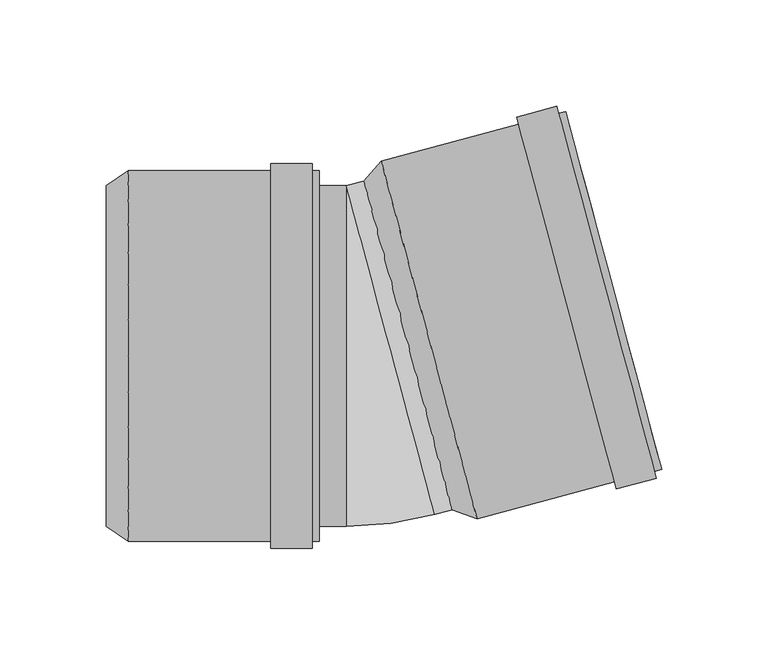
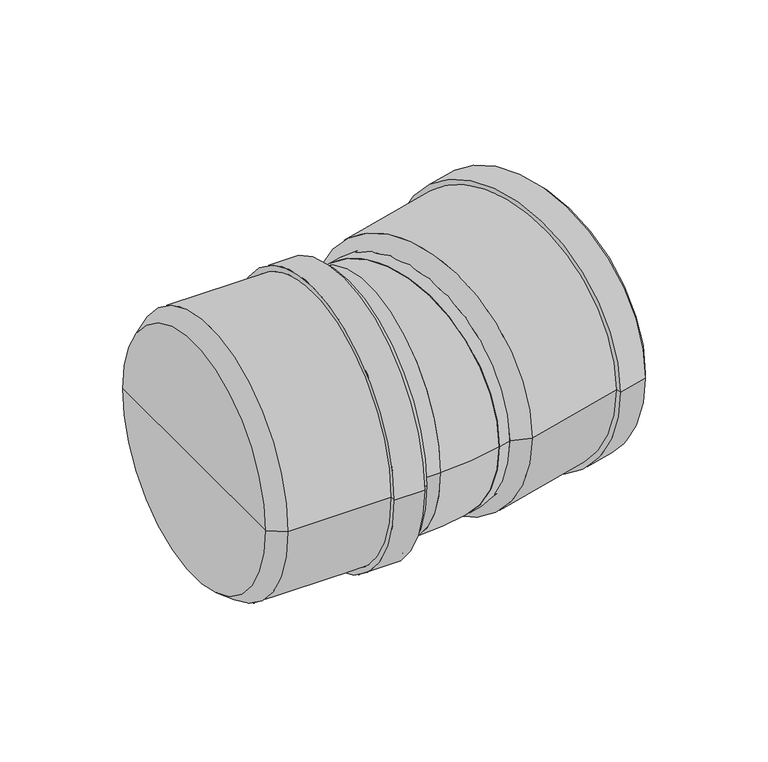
"""IFC4 building model written with IfcOpenShell, lengths in millimetres: pipe fitting geometry, pf_HTB : pf_HTB."""

from ifc_helpers import new_model, si_unit, point, frame, origin, origin_2d, place, context, project, spatial, polyline, circle_curve, ellipse_curve, trimmed, segment, composite_curve, outline, extrude, source, transform, mapped, element, save
from ifc_brep_helpers import plane_surface, cylinder_surface, revolved_surface, advanced_brep


def pipe_fitting_c4cf05fe(model_context):
    return source(origin(), model_context, "Body", "SolidModel", [
        advanced_brep(
        [(39.0581143, -72.3565042, 0.0), (-2.3529329, 82.191628, 0.0), (5.7584879, 91.7155375, 0.0), (50.8447655, -76.5487414, 0.0), (18.3525907, 4.9175619, 0.0), (137.4883122, -53.3326731, 0.0), (92.4020345, 114.9316058, 0.0), (94.2396497, 108.0735325, 0.0), (135.6506969, -46.4745997, 0.0), (134.2041643, -54.2126579, 0.0), (89.1178867, 114.0516211, 0.0), (135.0841491, -57.4968057, 0.0), (88.2379019, 117.3357689, 0.0), (116.2485955, -62.543777, 0.0), (69.4023483, 112.2887975, 0.0), (115.3686107, -59.2596292, 0.0), (70.2823331, 109.0046497, 0.0), (49.0071503, -69.6906681, 0.0), (7.5961031, 84.8574641, 0.0), (28.3016267, 7.583398, 0.0)],
        [
            (0, 1, circle_curve(frame((18.3525907, 4.9175619, 0.0), z_axis=(0.9659258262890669, 0.25881904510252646, 0.0), x_axis=(-0.2588190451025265, 0.9659258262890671, 0.0)), 80.0)),
            (1, 2),
            (2, 3, circle_curve(frame((28.3016267, 7.583398, 0.0), z_axis=(-0.9659258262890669, -0.25881904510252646, 0.0), x_axis=(-0.2588190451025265, 0.9659258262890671, 0.0)), 87.1)),
            (3, 0),
            (1, 0, circle_curve(frame((18.3525907, 4.9175619, 0.0), z_axis=(0.9659258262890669, 0.25881904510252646, 0.0), x_axis=(-0.2588190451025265, 0.9659258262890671, 0.0)), 80.0)),
            (3, 2, circle_curve(frame((28.3016267, 7.583398, 0.0), z_axis=(-0.9659258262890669, -0.25881904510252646, 0.0), x_axis=(-0.2588190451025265, 0.9659258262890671, 0.0)), 87.1)),
            (4, 1),
            (0, 4),
            (5, 6, circle_curve(frame((114.9451733, 30.7994664, 0.0), z_axis=(0.9659258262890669, 0.25881904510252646, 0.0), x_axis=(-0.2588190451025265, 0.9659258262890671, 0.0)), 87.1)),
            (6, 7),
            (7, 8, circle_curve(frame((114.9451733, 30.7994664, 0.0), z_axis=(-0.9659258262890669, -0.25881904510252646, 0.0), x_axis=(-0.2588190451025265, 0.9659258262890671, 0.0)), 80.0)),
            (8, 5),
            (6, 5, circle_curve(frame((114.9451733, 30.7994664, 0.0), z_axis=(0.9659258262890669, 0.25881904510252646, 0.0), x_axis=(-0.2588190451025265, 0.9659258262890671, 0.0)), 87.1)),
            (8, 7, circle_curve(frame((114.9451733, 30.7994664, 0.0), z_axis=(-0.9659258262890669, -0.25881904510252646, 0.0), x_axis=(-0.2588190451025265, 0.9659258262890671, 0.0)), 80.0)),
            (9, 10, circle_curve(frame((111.6610255, 29.9194816, 0.0), z_axis=(0.9659258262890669, 0.25881904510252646, 0.0), x_axis=(-0.2588190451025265, 0.9659258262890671, 0.0)), 87.1)),
            (10, 6),
            (5, 9),
            (10, 9, circle_curve(frame((111.6610255, 29.9194816, 0.0), z_axis=(0.9659258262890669, 0.25881904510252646, 0.0), x_axis=(-0.2588190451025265, 0.9659258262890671, 0.0)), 87.1)),
            (11, 12, circle_curve(frame((111.6610255, 29.9194816, 0.0), z_axis=(0.9659258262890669, 0.25881904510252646, 0.0), x_axis=(-0.2588190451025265, 0.9659258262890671, 0.0)), 90.5)),
            (12, 10),
            (9, 11),
            (12, 11, circle_curve(frame((111.6610255, 29.9194816, 0.0), z_axis=(0.9659258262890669, 0.25881904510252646, 0.0), x_axis=(-0.2588190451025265, 0.9659258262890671, 0.0)), 90.5)),
            (13, 14, circle_curve(frame((92.8254719, 24.8725102, 0.0), z_axis=(0.9659258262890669, 0.25881904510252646, 0.0), x_axis=(-0.2588190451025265, 0.9659258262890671, 0.0)), 90.5)),
            (14, 12),
            (11, 13),
            (14, 13, circle_curve(frame((92.8254719, 24.8725102, 0.0), z_axis=(0.9659258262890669, 0.25881904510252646, 0.0), x_axis=(-0.2588190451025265, 0.9659258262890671, 0.0)), 90.5)),
            (15, 16, circle_curve(frame((92.8254719, 24.8725102, 0.0), z_axis=(0.9659258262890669, 0.25881904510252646, 0.0), x_axis=(-0.2588190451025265, 0.9659258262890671, 0.0)), 87.1)),
            (16, 14),
            (13, 15),
            (16, 15, circle_curve(frame((92.8254719, 24.8725102, 0.0), z_axis=(0.9659258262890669, 0.25881904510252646, 0.0), x_axis=(-0.2588190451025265, 0.9659258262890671, 0.0)), 87.1)),
            (2, 16),
            (15, 3),
            (17, 18, circle_curve(frame((28.3016267, 7.583398, 0.0), z_axis=(0.9659258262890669, 0.25881904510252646, 0.0), x_axis=(-0.2588190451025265, 0.9659258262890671, 0.0)), 80.0)),
            (18, 19),
            (19, 17),
            (18, 17, circle_curve(frame((28.3016267, 7.583398, 0.0), z_axis=(0.9659258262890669, 0.25881904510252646, 0.0), x_axis=(-0.2588190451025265, 0.9659258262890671, 0.0)), 80.0)),
            (7, 18),
            (17, 8),
        ],
        [
            revolved_surface(polyline([(5.7584879, 91.7155375, 0.0), (-2.3529329, 82.191628, 0.0)]), (18.3525907, 4.9175619, 0.0), (-0.9659258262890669, -0.25881904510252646, 0.0)),
            plane_surface(frame((18.3525907, 4.9175619, 0.0), z_axis=(-0.9659258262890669, -0.25881904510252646, 0.0), x_axis=(-0.25881904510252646, 0.9659258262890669, 0.0))),
            plane_surface(frame((114.9451733, 30.7994664, 0.0), z_axis=(0.9659258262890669, 0.25881904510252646, 0.0), x_axis=(-0.25881904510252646, 0.9659258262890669, 0.0))),
            cylinder_surface(frame((18.3525907, 4.9175619, 0.0), z_axis=(-0.9659258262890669, -0.25881904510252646, 0.0), x_axis=(-0.2588190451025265, 0.9659258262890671, 0.0)), 87.1),
            plane_surface(frame((111.6610255, 29.9194816, 0.0), z_axis=(0.9659258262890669, 0.25881904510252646, 0.0), x_axis=(-0.25881904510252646, 0.9659258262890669, 0.0))),
            cylinder_surface(frame((18.3525907, 4.9175619, 0.0), z_axis=(-0.9659258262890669, -0.25881904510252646, 0.0), x_axis=(-0.2588190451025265, 0.9659258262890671, 0.0)), 90.5),
            plane_surface(frame((92.8254719, 24.8725102, 0.0), z_axis=(-0.9659258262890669, -0.25881904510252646, 0.0), x_axis=(-0.25881904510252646, 0.9659258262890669, 0.0))),
            plane_surface(frame((28.3016267, 7.583398, 0.0), z_axis=(0.9659258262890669, 0.25881904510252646, 0.0), x_axis=(-0.25881904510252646, 0.9659258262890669, 0.0))),
            revolved_surface(polyline([(7.596103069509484, 84.85746415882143, 0.0), (94.23964969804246, 108.07353250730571, 0.0)]), (18.3525907, 4.9175619, 0.0), (-0.9659258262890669, -0.25881904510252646, 0.0)),
        ],
        [
            (0, [[1, 2, 3, 4]]),
            (0, [[5, -4, 6, -2]]),
            (1, [[7, -1, 8]]),
            (1, [[-8, -5, -7]]),
            (2, [[9, 10, 11, 12]]),
            (2, [[13, -12, 14, -10]]),
            (3, [[15, 16, -9, 17]]),
            (3, [[18, -17, -13, -16]]),
            (4, [[19, 20, -15, 21]]),
            (4, [[22, -21, -18, -20]]),
            (5, [[23, 24, -19, 25]]),
            (5, [[26, -25, -22, -24]]),
            (6, [[27, 28, -23, 29]]),
            (6, [[30, -29, -26, -28]]),
            (3, [[-3, 31, -27, 32]]),
            (3, [[-6, -32, -30, -31]]),
            (7, [[33, 34, 35]]),
            (7, [[36, -35, -34]]),
            (8, [[-11, 37, -33, 38]]),
            (8, [[-14, -38, -36, -37]]),
        ],
    ),
        advanced_brep(
        [(-123.3, -80.0, 0.0), (-123.3, 80.0, 0.0), (-113.0, 87.1, 0.0), (-113.0, -87.1, 0.0), (-123.3, 0.0, 0.0), (-23.3, -87.1, 0.0), (-23.3, 87.1, 0.0), (-23.3, 80.0, 0.0), (-23.3, -80.0, 0.0), (-26.7, -87.1, 0.0), (-26.7, 87.1, 0.0), (-26.7, -90.5, 0.0), (-26.7, 90.5, 0.0), (-46.2, -90.5, 0.0), (-46.2, 90.5, 0.0), (-46.2, -87.1, 0.0), (-46.2, 87.1, 0.0), (-113.0, -80.0, 0.0), (-113.0, 80.0, 0.0), (-113.0, 0.0, 0.0)],
        [
            (0, 1, circle_curve(frame((-123.3, 0.0, 0.0), z_axis=(1.0, 0.0, 0.0), x_axis=(0.0, 1.0, 0.0)), 80.0)),
            (1, 2),
            (2, 3, circle_curve(frame((-113.0, 0.0, 0.0), z_axis=(-1.0, 0.0, 0.0), x_axis=(0.0, 1.0, 0.0)), 87.1)),
            (3, 0),
            (1, 0, circle_curve(frame((-123.3, 0.0, 0.0), z_axis=(1.0, 0.0, 0.0), x_axis=(0.0, 1.0, 0.0)), 80.0)),
            (3, 2, circle_curve(frame((-113.0, 0.0, 0.0), z_axis=(-1.0, 0.0, 0.0), x_axis=(0.0, 1.0, 0.0)), 87.1)),
            (4, 1),
            (0, 4),
            (5, 6, circle_curve(frame((-23.3, 0.0, 0.0), z_axis=(1.0, 0.0, 0.0), x_axis=(0.0, 1.0, 0.0)), 87.1)),
            (6, 7),
            (7, 8, circle_curve(frame((-23.3, 0.0, 0.0), z_axis=(-1.0, 0.0, 0.0), x_axis=(0.0, 1.0, 0.0)), 80.0)),
            (8, 5),
            (6, 5, circle_curve(frame((-23.3, 0.0, 0.0), z_axis=(1.0, 0.0, 0.0), x_axis=(0.0, 1.0, 0.0)), 87.1)),
            (8, 7, circle_curve(frame((-23.3, 0.0, 0.0), z_axis=(-1.0, 0.0, 0.0), x_axis=(0.0, 1.0, 0.0)), 80.0)),
            (9, 10, circle_curve(frame((-26.7, 0.0, 0.0), z_axis=(1.0, 0.0, 0.0), x_axis=(0.0, 1.0, 0.0)), 87.1)),
            (10, 6),
            (5, 9),
            (10, 9, circle_curve(frame((-26.7, 0.0, 0.0), z_axis=(1.0, 0.0, 0.0), x_axis=(0.0, 1.0, 0.0)), 87.1)),
            (11, 12, circle_curve(frame((-26.7, 0.0, 0.0), z_axis=(1.0, 0.0, 0.0), x_axis=(0.0, 1.0, 0.0)), 90.5)),
            (12, 10),
            (9, 11),
            (12, 11, circle_curve(frame((-26.7, 0.0, 0.0), z_axis=(1.0, 0.0, 0.0), x_axis=(0.0, 1.0, 0.0)), 90.5)),
            (13, 14, circle_curve(frame((-46.2, 0.0, 0.0), z_axis=(1.0, 0.0, 0.0), x_axis=(0.0, 1.0, 0.0)), 90.5)),
            (14, 12),
            (11, 13),
            (14, 13, circle_curve(frame((-46.2, 0.0, 0.0), z_axis=(1.0, 0.0, 0.0), x_axis=(0.0, 1.0, 0.0)), 90.5)),
            (15, 16, circle_curve(frame((-46.2, 0.0, 0.0), z_axis=(1.0, 0.0, 0.0), x_axis=(0.0, 1.0, 0.0)), 87.1)),
            (16, 14),
            (13, 15),
            (16, 15, circle_curve(frame((-46.2, 0.0, 0.0), z_axis=(1.0, 0.0, 0.0), x_axis=(0.0, 1.0, 0.0)), 87.1)),
            (2, 16),
            (15, 3),
            (17, 18, circle_curve(frame((-113.0, 0.0, 0.0), z_axis=(1.0, 0.0, 0.0), x_axis=(0.0, 1.0, 0.0)), 80.0)),
            (18, 19),
            (19, 17),
            (18, 17, circle_curve(frame((-113.0, 0.0, 0.0), z_axis=(1.0, 0.0, 0.0), x_axis=(0.0, 1.0, 0.0)), 80.0)),
            (7, 18),
            (17, 8),
        ],
        [
            revolved_surface(polyline([(-113.0, 87.1, 0.0), (-123.3, 80.0, 0.0)]), (-123.3, 0.0, 0.0), (-1.0, 0.0, 0.0)),
            plane_surface(frame((-123.3, 0.0, 0.0), z_axis=(-1.0, 0.0, 0.0), x_axis=(0.0, 1.0, 0.0))),
            plane_surface(frame((-23.3, 0.0, 0.0), z_axis=(1.0, 0.0, 0.0), x_axis=(0.0, 1.0, 0.0))),
            cylinder_surface(frame((-123.3, 0.0, 0.0), z_axis=(-1.0, 0.0, 0.0), x_axis=(0.0, 1.0, 0.0)), 87.1),
            plane_surface(frame((-26.7, 0.0, 0.0), z_axis=(1.0, 0.0, 0.0), x_axis=(0.0, 1.0, 0.0))),
            cylinder_surface(frame((-123.3, 0.0, 0.0), z_axis=(-1.0, 0.0, 0.0), x_axis=(0.0, 1.0, 0.0)), 90.5),
            plane_surface(frame((-46.2, 0.0, 0.0), z_axis=(-1.0, 0.0, 0.0), x_axis=(0.0, 1.0, 0.0))),
            plane_surface(frame((-113.0, 0.0, 0.0), z_axis=(1.0, 0.0, 0.0), x_axis=(0.0, 1.0, 0.0))),
            revolved_surface(polyline([(-113.0, 80.0, 0.0), (-23.299999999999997, 80.0, 0.0)]), (-123.3, 0.0, 0.0), (-1.0, 0.0, 0.0)),
        ],
        [
            (0, [[1, 2, 3, 4]]),
            (0, [[5, -4, 6, -2]]),
            (1, [[7, -1, 8]]),
            (1, [[-8, -5, -7]]),
            (2, [[9, 10, 11, 12]]),
            (2, [[13, -12, 14, -10]]),
            (3, [[15, 16, -9, 17]]),
            (3, [[18, -17, -13, -16]]),
            (4, [[19, 20, -15, 21]]),
            (4, [[22, -21, -18, -20]]),
            (5, [[23, 24, -19, 25]]),
            (5, [[26, -25, -22, -24]]),
            (6, [[27, 28, -23, 29]]),
            (6, [[30, -29, -26, -28]]),
            (3, [[-3, 31, -27, 32]]),
            (3, [[-6, -32, -30, -31]]),
            (7, [[33, 34, 35]]),
            (7, [[36, -35, -34]]),
            (8, [[-11, 37, -33, 38]]),
            (8, [[-14, -38, -36, -37]]),
        ],
    ),
        extrude(outline(composite_curve([segment(trimmed(circle_curve(origin_2d(), 80.0), [point((0.0, -80.0))], [point((0.0, 80.0))], False, "CARTESIAN"), True, "CONTINUOUS"), segment(trimmed(circle_curve(origin_2d(), 80.0), [point((0.0, 80.0))], [point((0.0, -80.0))], False, "CARTESIAN"), True, "CONTINUOUS")], self_intersect=False)), frame((10.1733238, 2.7259339, 0.0), z_axis=(0.9659258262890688, 0.25881904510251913, 0.0), x_axis=(0.0, 0.0, 1.0)), (0.0, 0.0, 1.0), 18.7678002),
        extrude(outline(composite_curve([segment(trimmed(circle_curve(origin_2d(), 80.0), [point((-80.0, 0.0))], [point((80.0, 0.0))], False, "CARTESIAN"), True, "CONTINUOUS"), segment(trimmed(circle_curve(origin_2d(), 80.0), [point((80.0, 0.0))], [point((-80.0, 0.0))], False, "CARTESIAN"), True, "CONTINUOUS")], self_intersect=False)), frame((-113.0, 0.0, 0.0), z_axis=(1.0, 0.0, 0.0), x_axis=(0.0, 1.0, 0.0)), (0.0, 0.0, 1.0), 102.4678002),
        advanced_brep(
        [(-10.5321998, -80.0, 0.0), (-10.5321998, 80.0, 0.0), (30.8788474, -74.5481322, 0.0)],
        [
            (0, 1, circle_curve(frame((-10.5321998, 0.0, 0.0), z_axis=(-1.0, 0.0, 0.0), x_axis=(0.0, 1.0, 0.0)), 80.0)),
            (1, 0, circle_curve(frame((-10.5321998, 0.0, 0.0), z_axis=(-1.0, 0.0, 0.0), x_axis=(0.0, 1.0, 0.0)), 80.0)),
            (2, 1, circle_curve(frame((10.1733238, 2.7259339, 0.0), z_axis=(0.9659258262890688, 0.25881904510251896, 0.0), x_axis=(-0.25881904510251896, 0.9659258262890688, 0.0)), 80.0)),
            (1, 2, circle_curve(frame((10.1733238, 2.7259339, 0.0), z_axis=(0.9659258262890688, 0.25881904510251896, 0.0), x_axis=(-0.25881904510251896, 0.9659258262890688, 0.0)), 80.0)),
            (2, 0, circle_curve(frame((-10.5321998, 80.0, 0.0), z_axis=(0.0, 0.0, -1.0), x_axis=(0.0, -1.0, 0.0)), 160.0)),
        ],
        [
            plane_surface(frame((-10.5321998, 80.0, -14.8), z_axis=(-1.0, 0.0, 0.0), x_axis=(0.0, -1.0, 0.0))),
            plane_surface(frame((-10.5321998, 80.0, -14.8), z_axis=(0.9659258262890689, 0.258819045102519, 0.0), x_axis=(0.258819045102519, -0.9659258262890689, 0.0))),
            revolved_surface(trimmed(ellipse_curve(frame((-10.5321998, 0.0, 0.0), z_axis=(1.0, 0.0, 0.0), x_axis=(0.0, 1.0, 0.0)), 80.0, 80.0), [point((-10.5321998, -80.0, 0.0))], [point((-10.5321998, 80.0, 0.0))], True, "CARTESIAN"), (-10.5321998, 80.0, -14.8), (0.0, 0.0, -1.0)),
            revolved_surface(trimmed(ellipse_curve(frame((-10.5321998, 0.0, 0.0), z_axis=(1.0, 0.0, 0.0), x_axis=(0.0, 1.0, 0.0)), 80.0, 80.0), [point((-10.5321998, 80.0, 0.0))], [point((-10.5321998, -80.0, 0.0))], True, "CARTESIAN"), (-10.5321998, 80.0, -14.8), (0.0, 0.0, -1.0)),
        ],
        [
            (0, [[1, 2]]),
            (1, [[3, 4]]),
            (2, [[5, -2, -3]]),
            (3, [[-1, -5, -4]]),
        ],
    ),
    ])


if __name__ == "__main__":
    model = new_model("IFC4")
    model_context = context("Model", 3, world=origin())
    ifc_project = project(units=[si_unit("LENGTHUNIT", "METRE", prefix="MILLI")], contexts=[model_context])
    site = spatial("IfcSite", under=ifc_project)
    building = spatial("IfcBuilding", under=site)
    placement = place(None, origin())
    pipe_fitting_shape = pipe_fitting_c4cf05fe(model_context)
    element("IfcPipeFitting", 1, ObjectType="pf_HTB : pf_HTB", at=placement, inside=building, context=model_context, shape_type="MappedRepresentation", body=[
        mapped(pipe_fitting_shape, transform((0.0, 0.0, 0.0), x_axis=(1.0, 0.0, 0.0), y_axis=(0.0, 1.0, 0.0), z_axis=(0.0, 0.0, 1.0))),
    ])
    save(model, "model.ifc")
